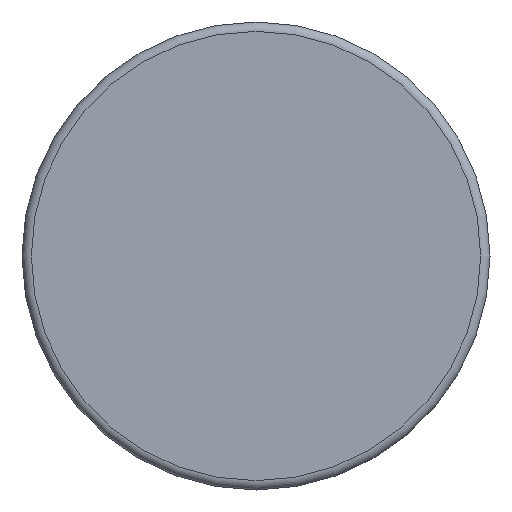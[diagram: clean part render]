
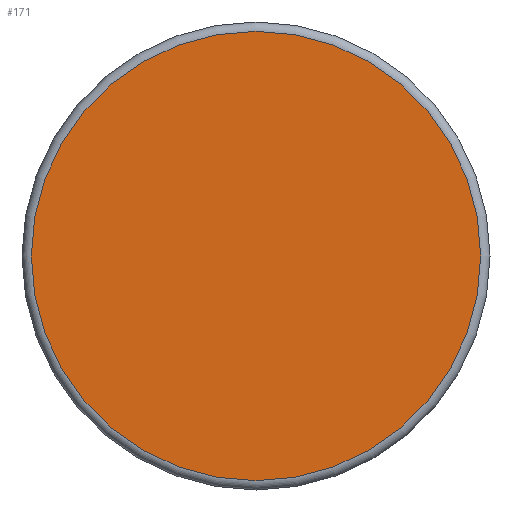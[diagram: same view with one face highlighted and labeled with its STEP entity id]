
A CAD part, front view. The second image highlights one B-rep face of the part: STEP entity #171.
In plain terms, the highlighted planar face has unit normal (0, -1, 0).
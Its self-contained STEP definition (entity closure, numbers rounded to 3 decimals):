
#171 = ADVANCED_FACE( '', ( #345 ), #346, .F. );
#345 = FACE_OUTER_BOUND( '', #545, .T. );
#346 = PLANE( '', #546 );
#545 = EDGE_LOOP( '', ( #790 ) );
#546 = AXIS2_PLACEMENT_3D( '', #791, #792, #793 );
#790 = ORIENTED_EDGE( '', *, *, #1157, .T. );
#791 = CARTESIAN_POINT( '', ( 24., 0., 0. ) );
#792 = DIRECTION( '', ( 0., 1., 0. ) );
#793 = DIRECTION( '', ( 0., 0., 1. ) );
#1157 = EDGE_CURVE( '', #1343, #1343, #1344, .T. );
#1343 = VERTEX_POINT( '', #1664 );
#1344 = CIRCLE( '', #1665, 24. );
#1664 = CARTESIAN_POINT( '', ( 0., 0., -24. ) );
#1665 = AXIS2_PLACEMENT_3D( '', #2031, #2032, #2033 );
#2031 = CARTESIAN_POINT( '', ( 0., 0., 0. ) );
#2032 = DIRECTION( '', ( 0., -1., 0. ) );
#2033 = DIRECTION( '', ( 0., 0., -1. ) );
